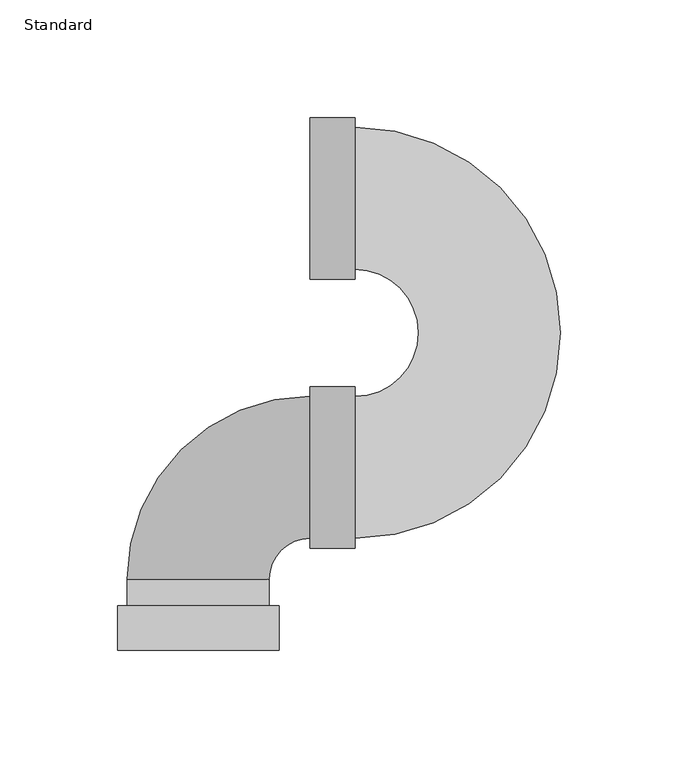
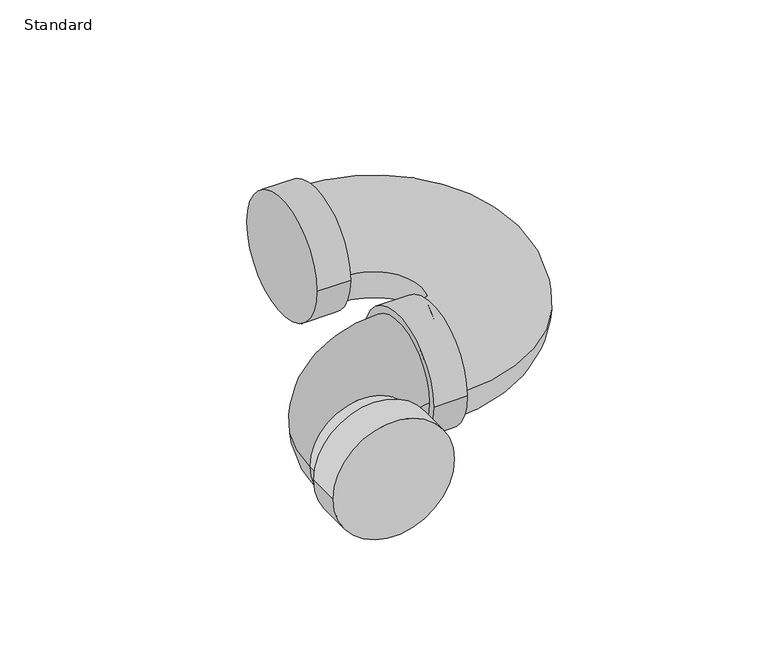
"""IFC4 building model written with IfcOpenShell, lengths in millimetres: pipe fitting geometry, GES P TRAP PVC Sch 40 - DWV : Standard."""

from ifc_helpers import new_model, si_unit, point, frame, origin, place, context, project, spatial, circle_curve, ellipse_curve, trimmed, source, transform, mapped, element, save
from ifc_brep_helpers import plane_surface, cylinder_surface, revolved_surface, advanced_brep


def standard_8c31f35f(model_context):
    return source(origin(), model_context, "Body", "AdvancedBrep", [
        advanced_brep(
        [(-34.3154, -192.0875, 0.0), (34.3154, -192.0875, 0.0), (-34.3154, -173.0375, 0.0), (34.3154, -173.0375, 0.0), (-30.1625, -173.0375, 0.0), (30.1625, -173.0375, 0.0), (30.1625, -161.925, 0.0), (47.625, -144.4625, 0.0), (47.625, -84.1375, 0.0), (-30.1625, -161.925, 0.0), (66.675, 30.1625, 0.0), (66.675, -30.1625, 0.0), (66.675, -84.1375, 0.0), (66.675, -144.4625, 0.0), (47.625, -79.9846, 0.0), (47.625, -148.6154, 0.0), (66.675, -79.9846, 0.0), (66.675, -148.6154, 0.0), (47.625, 34.3154, 0.0), (47.625, -34.3154, 0.0), (66.675, 34.3154, 0.0), (66.675, -34.3154, 0.0)],
        [
            (0, 1, circle_curve(frame((0.0, -192.0875, 0.0), z_axis=(0.0, -1.0, 0.0), x_axis=(1.0, 0.0, 0.0)), 34.3154)),
            (1, 0, circle_curve(frame((0.0, -192.0875, 0.0), z_axis=(0.0, -1.0, 0.0), x_axis=(1.0, 0.0, 0.0)), 34.3154)),
            (2, 3, circle_curve(frame((0.0, -173.0375, 0.0), z_axis=(0.0, 1.0, 0.0), x_axis=(1.0, 0.0, 0.0)), 34.3154)),
            (3, 2, circle_curve(frame((0.0, -173.0375, 0.0), z_axis=(0.0, 1.0, 0.0), x_axis=(1.0, 0.0, 0.0)), 34.3154)),
            (4, 5, circle_curve(frame((0.0, -173.0375, 0.0), z_axis=(0.0, -1.0, 0.0), x_axis=(1.0, 0.0, 0.0)), 30.1625)),
            (5, 4, circle_curve(frame((0.0, -173.0375, 0.0), z_axis=(0.0, -1.0, 0.0), x_axis=(1.0, 0.0, 0.0)), 30.1625)),
            (1, 3),
            (2, 0),
            (6, 7, circle_curve(frame((47.625, -161.925, 0.0), z_axis=(0.0, 0.0, -1.0), x_axis=(-1.0, 0.0, 0.0)), 17.4625)),
            (7, 8, circle_curve(frame((47.625, -114.3, 0.0), z_axis=(-1.0, 0.0, 0.0), x_axis=(0.0, -1.0, 0.0)), 30.1625)),
            (8, 9, circle_curve(frame((47.625, -161.925, 0.0), z_axis=(0.0, 0.0, 1.0), x_axis=(-1.0, 0.0, 0.0)), 77.7875)),
            (9, 6, circle_curve(frame((0.0, -161.925, 0.0), z_axis=(0.0, 1.0, 0.0), x_axis=(1.0, 0.0, 0.0)), 30.1625)),
            (8, 7, circle_curve(frame((47.625, -114.3, 0.0), z_axis=(-1.0, 0.0, 0.0), x_axis=(0.0, -1.0, 0.0)), 30.1625)),
            (6, 9, circle_curve(frame((0.0, -161.925, 0.0), z_axis=(0.0, 1.0, 0.0), x_axis=(1.0, 0.0, 0.0)), 30.1625)),
            (10, 11, circle_curve(frame((66.675, 0.0, 0.0), z_axis=(1.0, 0.0, 0.0), x_axis=(0.0, 1.0, 0.0)), 30.1625)),
            (11, 12, circle_curve(frame((66.675, -57.15, 0.0), z_axis=(0.0, 0.0, -1.0), x_axis=(0.0, -1.0, 0.0)), 26.9875)),
            (12, 13, circle_curve(frame((66.675, -114.3, 0.0), z_axis=(1.0, 0.0, 0.0), x_axis=(0.0, -1.0, 0.0)), 30.1625)),
            (13, 10, circle_curve(frame((66.675, -57.15, 0.0), z_axis=(0.0, 0.0, 1.0), x_axis=(0.0, -1.0, 0.0)), 87.3125)),
            (13, 12, circle_curve(frame((66.675, -114.3, 0.0), z_axis=(1.0, 0.0, 0.0), x_axis=(0.0, -1.0, 0.0)), 30.1625)),
            (11, 10, circle_curve(frame((66.675, 0.0, 0.0), z_axis=(1.0, 0.0, 0.0), x_axis=(0.0, 1.0, 0.0)), 30.1625)),
            (14, 15, circle_curve(frame((47.625, -114.3, 0.0), z_axis=(-1.0, 0.0, 0.0), x_axis=(0.0, -1.0, 0.0)), 34.3154)),
            (15, 14, circle_curve(frame((47.625, -114.3, 0.0), z_axis=(-1.0, 0.0, 0.0), x_axis=(0.0, -1.0, 0.0)), 34.3154)),
            (16, 17, circle_curve(frame((66.675, -114.3, 0.0), z_axis=(1.0, 0.0, 0.0), x_axis=(0.0, -1.0, 0.0)), 34.3154)),
            (17, 16, circle_curve(frame((66.675, -114.3, 0.0), z_axis=(1.0, 0.0, 0.0), x_axis=(0.0, -1.0, 0.0)), 34.3154)),
            (15, 17),
            (16, 14),
            (18, 19, circle_curve(frame((47.625, 0.0, 0.0), z_axis=(-1.0, 0.0, 0.0), x_axis=(0.0, -1.0, 0.0)), 34.3154)),
            (19, 18, circle_curve(frame((47.625, 0.0, 0.0), z_axis=(-1.0, 0.0, 0.0), x_axis=(0.0, -1.0, 0.0)), 34.3154)),
            (20, 21, circle_curve(frame((66.675, 0.0, 0.0), z_axis=(1.0, 0.0, 0.0), x_axis=(0.0, -1.0, 0.0)), 34.3154)),
            (21, 20, circle_curve(frame((66.675, 0.0, 0.0), z_axis=(1.0, 0.0, 0.0), x_axis=(0.0, -1.0, 0.0)), 34.3154)),
            (19, 21),
            (20, 18),
            (9, 4),
            (5, 6),
        ],
        [
            plane_surface(frame((0.0, -192.0875, 0.0), z_axis=(0.0, -1.0, 0.0), x_axis=(0.0, 0.0, 1.0))),
            plane_surface(frame((0.0, -173.0375, 0.0), z_axis=(0.0, 1.0, 0.0), x_axis=(0.0, 0.0, 1.0))),
            cylinder_surface(frame((0.0, -192.0875, 0.0), z_axis=(0.0, -1.0, 0.0), x_axis=(1.0, 0.0, 0.0)), 34.3154),
            revolved_surface(trimmed(ellipse_curve(frame((0.0, -161.925, 0.0), z_axis=(0.0, 1.0, 0.0), x_axis=(1.0, 0.0, 0.0)), 30.1625, 30.1625), [point((-30.1625, -161.925, 0.0))], [point((30.1625, -161.925, 0.0))], True, "CARTESIAN"), (47.625, -161.925, 0.0), (0.0, 0.0, 1.0)),
            revolved_surface(trimmed(ellipse_curve(frame((0.0, -161.925, 0.0), z_axis=(0.0, 1.0, 0.0), x_axis=(1.0, 0.0, 0.0)), 30.1625, 30.1625), [point((30.1625, -161.925, 0.0))], [point((-30.1625, -161.925, 0.0))], True, "CARTESIAN"), (47.625, -161.925, 0.0), (0.0, 0.0, 1.0)),
            revolved_surface(trimmed(ellipse_curve(frame((66.675, -114.3, 0.0), z_axis=(1.0, 0.0, 0.0), x_axis=(0.0, -1.0, 0.0)), 30.1625, 30.1625), [point((66.675, -84.1375, 0.0))], [point((66.675, -144.4625, 0.0))], True, "CARTESIAN"), (66.675, -57.15, 0.0), (0.0, 0.0, -1.0)),
            revolved_surface(trimmed(ellipse_curve(frame((66.675, -114.3, 0.0), z_axis=(1.0, 0.0, 0.0), x_axis=(0.0, -1.0, 0.0)), 30.1625, 30.1625), [point((66.675, -144.4625, 0.0))], [point((66.675, -84.1375, 0.0))], True, "CARTESIAN"), (66.675, -57.15, 0.0), (0.0, 0.0, -1.0)),
            plane_surface(frame((47.625, -114.3, 0.0), z_axis=(-1.0, 0.0, 0.0), x_axis=(0.0, 0.0, 1.0))),
            plane_surface(frame((66.675, -114.3, 0.0), z_axis=(1.0, 0.0, 0.0), x_axis=(0.0, 0.0, 1.0))),
            cylinder_surface(frame((47.625, -114.3, 0.0), z_axis=(-1.0, 0.0, 0.0), x_axis=(0.0, -1.0, 0.0)), 34.3154),
            plane_surface(frame((47.625, 0.0, 0.0), z_axis=(-1.0, 0.0, 0.0), x_axis=(0.0, 0.0, 1.0))),
            plane_surface(frame((66.675, 0.0, 0.0), z_axis=(1.0, 0.0, 0.0), x_axis=(0.0, 0.0, 1.0))),
            cylinder_surface(frame((47.625, 0.0, 0.0), z_axis=(-1.0, 0.0, 0.0), x_axis=(0.0, -1.0, 0.0)), 34.3154),
            cylinder_surface(frame((0.0, -192.0875, 0.0), z_axis=(0.0, -1.0, 0.0), x_axis=(1.0, 0.0, 0.0)), 30.1625),
        ],
        [
            (0, [[1, 2]]),
            (1, [[3, 4], [5, 6]]),
            (2, [[7, -3, 8, -2]]),
            (2, [[-8, -4, -7, -1]]),
            (3, [[9, 10, 11, 12]]),
            (4, [[-11, 13, -9, 14]]),
            (5, [[15, 16, 17, 18]]),
            (6, [[19, -16, 20, -18]]),
            (7, [[21, 22], [-13, -10]]),
            (8, [[23, 24], [-19, -17]]),
            (9, [[25, -23, 26, -22]]),
            (9, [[-26, -24, -25, -21]]),
            (10, [[27, 28]]),
            (11, [[29, 30], [-20, -15]]),
            (12, [[31, -29, 32, -28]]),
            (12, [[-32, -30, -31, -27]]),
            (13, [[33, -6, 34, -12]]),
            (13, [[-34, -5, -33, -14]]),
        ],
    ),
    ])


if __name__ == "__main__":
    model = new_model("IFC4")
    model_context = context("Model", 3, world=origin())
    ifc_project = project(units=[si_unit("LENGTHUNIT", "METRE", prefix="MILLI")], contexts=[model_context])
    site = spatial("IfcSite", under=ifc_project)
    building = spatial("IfcBuilding", under=site)
    placement = place(None, origin())
    standard_shape = standard_8c31f35f(model_context)
    element("IfcPipeFitting", 1, ObjectType="GES P TRAP PVC Sch 40 - DWV : Standard", at=placement, inside=building, context=model_context, shape_type="MappedRepresentation", body=[
        mapped(standard_shape, transform((0.0, 0.0, 0.0), x_axis=(1.0, 0.0, 0.0), y_axis=(0.0, 1.0, 0.0), z_axis=(0.0, 0.0, 1.0))),
    ])
    save(model, "model.ifc")
